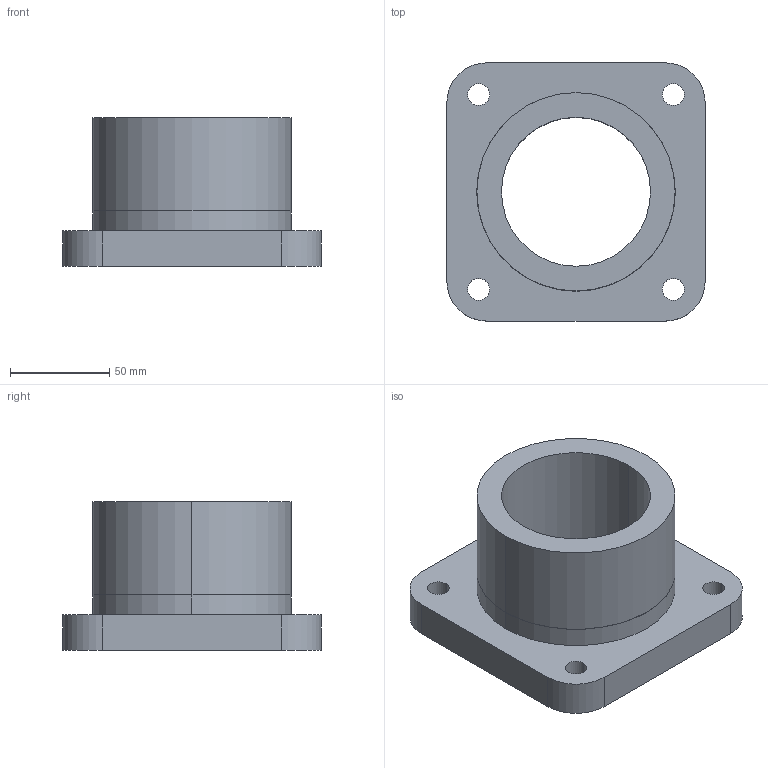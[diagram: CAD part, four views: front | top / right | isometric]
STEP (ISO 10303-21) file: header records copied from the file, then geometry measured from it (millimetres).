
FILE_DESCRIPTION (( 'STEP AP214' ), '1' );
FILE_NAME ('KFG81-50.step', '2020-03-04T13:36:49', ( '' ), ( '' ), 'SwSTEP 2.0', 'SolidWorks 2019', '' );
FILE_SCHEMA (( 'AUTOMOTIVE_DESIGN' ));
Length unit declared in the file: millimetre
Products named in the file (1): KFG81-50
Bounding box: 130 x 130 x 75 mm (x, y, z)
Volume: 400985.1 mm3; surface area: 70418.9 mm2
Topology: 1 solids, 1 shells, 29 faces, 72 edges, 48 vertices
Faces by surface type: cylinder 20, plane 9
Entity records: 940 total; most frequent: DIRECTION 172, CARTESIAN_POINT 150, ORIENTED_EDGE 144, EDGE_CURVE 72, AXIS2_PLACEMENT_3D 70, VERTEX_POINT 48, EDGE_LOOP 42, CIRCLE 40
